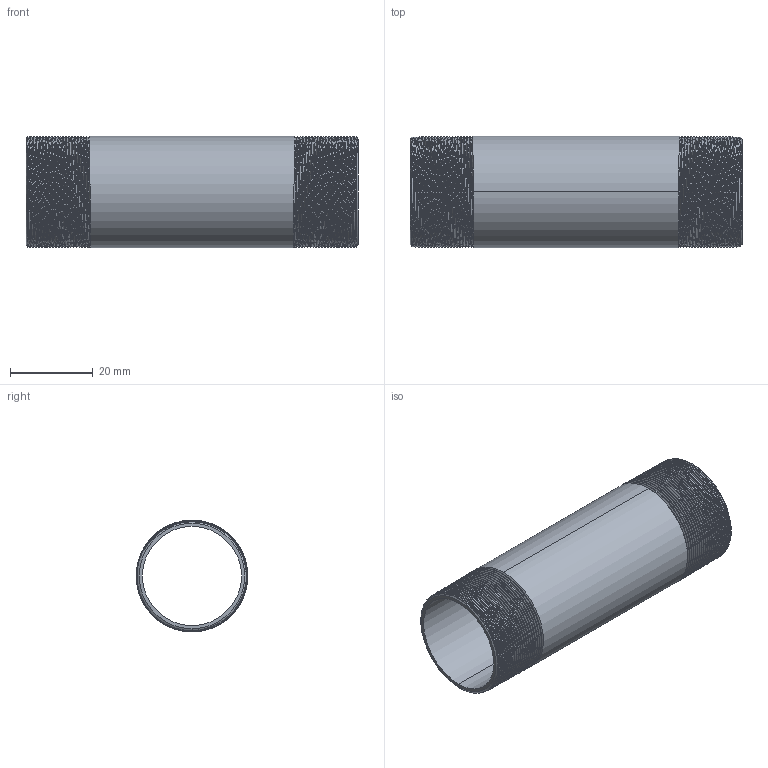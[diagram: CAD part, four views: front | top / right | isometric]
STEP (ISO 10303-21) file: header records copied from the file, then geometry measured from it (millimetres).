
FILE_DESCRIPTION (( 'STEP AP203' ), '1' );
FILE_NAME ('3D_R210_3-4x80_17185740.STEP', '2024-08-16T11:19:08', ( '' ), ( '' ), 'SwSTEP 2.0', 'SolidWorks 2024', '' );
FILE_SCHEMA (( 'CONFIG_CONTROL_DESIGN' ));
Length unit declared in the file: millimetre
Products named in the file (1): 3D_R210_3-4x80_17185740
Bounding box: 80 x 26.89 x 26.9 mm (x, y, z)
Volume: 9014.2 mm3; surface area: 14087.5 mm2
Topology: 1 solids, 1 shells, 106 faces, 304 edges, 200 vertices
Faces by surface type: cone 92, bspline 6, cylinder 4, plane 4
Entity records: 16481 total; most frequent: CARTESIAN_POINT 14027, ORIENTED_EDGE 608, DIRECTION 328, EDGE_CURVE 304, VERTEX_POINT 200, B_SPLINE_CURVE_WITH_KNOTS 182, AXIS2_PLACEMENT_3D 113, EDGE_LOOP 108
